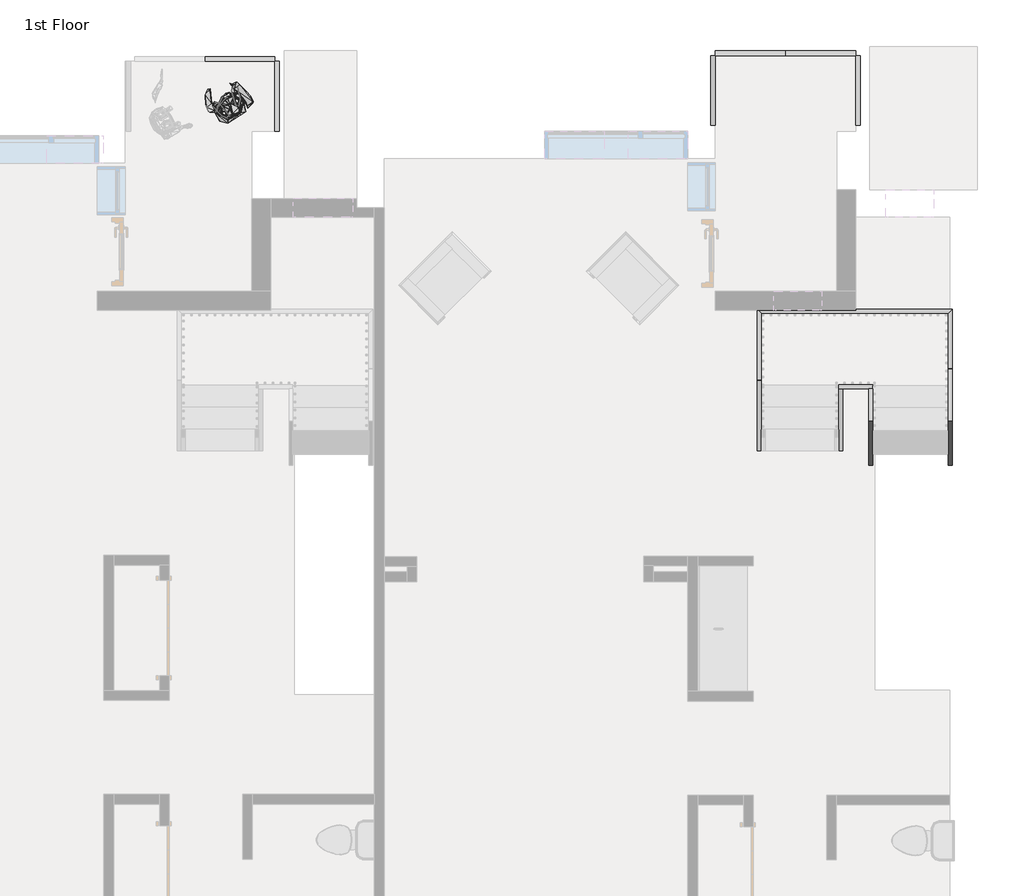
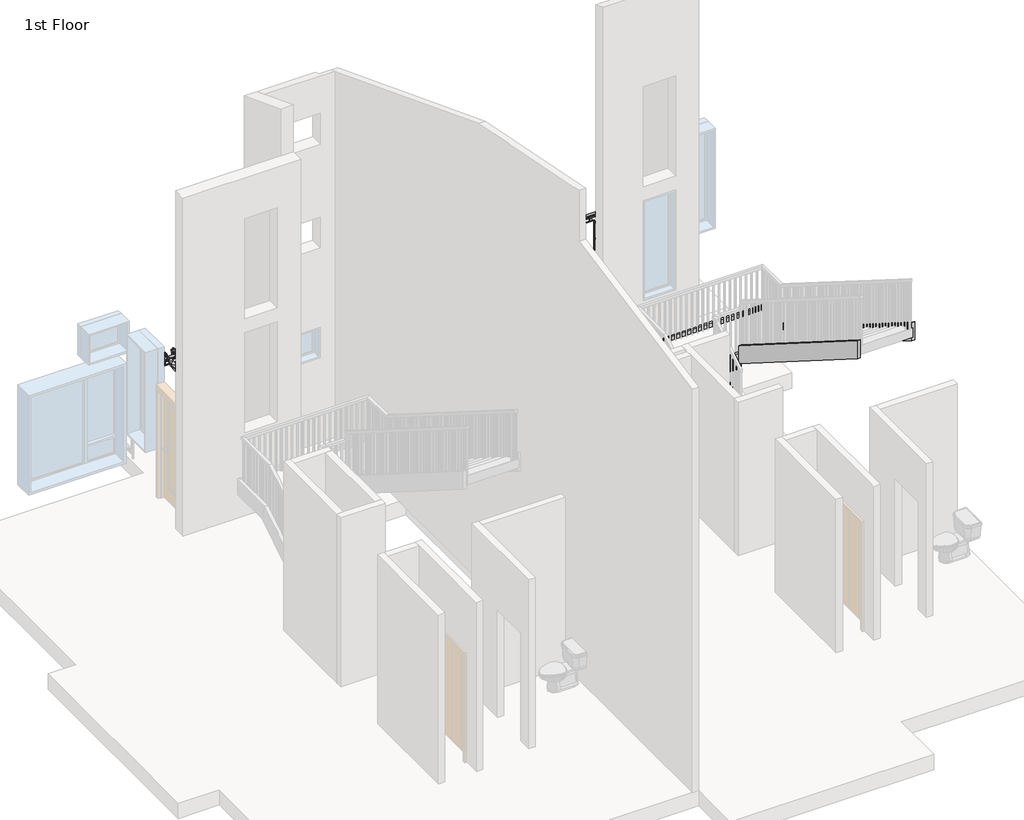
# One storey, part 6 of 6: 8 members, 6 proxies, 1 geographic element.
"""IFC4 building model written with IfcOpenShell, lengths in millimetres."""

from ifc_helpers import new_model, si_unit, frame, origin, place, context, project, spatial, polyline, outline, extrude, faceted_brep, transform, mapped, element, save
from components import railing_1panel_square_2b676750, geographic_element_af0ef37f

model = new_model("IFC4")

# Units and contexts
model_context = context("Model", 3, world=origin())
ifc_project = project(units=[si_unit("LENGTHUNIT", "METRE", prefix="MILLI")], contexts=[model_context])

# Site, building, storey
site = spatial("IfcSite", under=ifc_project)
building = spatial("IfcBuilding", under=site)
storey = spatial("IfcBuildingStorey", under=building, Name="1st Floor", Elevation=0.0)

# Proxies
placement = place(None, origin())
railing_1panel_square_shape = railing_1panel_square_2b676750(model_context)
element("IfcBuildingElementProxy", 1, Name="railing(inprogress)3 : railing 1panel square", ObjectType="railing(inprogress)3 : railing 1panel square", at=placement, inside=storey, context=model_context, shape_type="MappedRepresentation", body=[
    mapped(railing_1panel_square_shape, transform((2629.5676395, 6788.5000585, 0.0), x_axis=(0.0, 1.0, 0.0), y_axis=(-1.0, 0.0, 0.0), z_axis=(0.0, 0.0, 1.0))),
])
element("IfcBuildingElementProxy", 2, Name="railing(inprogress)3 : railing 1panel square", ObjectType="railing(inprogress)3 : railing 1panel square", at=placement, inside=storey, context=model_context, shape_type="MappedRepresentation", body=[
    mapped(railing_1panel_square_shape, transform((3464.9951899, 7781.718991, 0.0), x_axis=(1.0, 0.0, 0.0), y_axis=(0.0, 1.0, 0.0), z_axis=(0.0, 0.0, 1.0))),
])
element("IfcBuildingElementProxy", 3, Name="railing(inprogress)3 : railing 1panel square", ObjectType="railing(inprogress)3 : railing 1panel square", at=placement, inside=storey, context=model_context, shape_type="MappedRepresentation", body=[
    mapped(railing_1panel_square_shape, transform((2566.3053219, 7781.718991, 0.0), x_axis=(1.0, 0.0, 0.0), y_axis=(0.0, 1.0, 0.0), z_axis=(0.0, 0.0, 1.0))),
])
element("IfcBuildingElementProxy", 4, Name="railing(inprogress)3 : railing 1panel square", ObjectType="railing(inprogress)3 : railing 1panel square", at=placement, inside=storey, context=model_context, shape_type="MappedRepresentation", body=[
    mapped(railing_1panel_square_shape, transform((4458.2141224, 7844.9813085, 0.0), x_axis=(0.0, -1.0, 0.0), y_axis=(1.0, 0.0, 0.0), z_axis=(0.0, 0.0, 1.0))),
])
element("IfcBuildingElementProxy", 5, Name="railing(inprogress)3 : railing 1panel square", ObjectType="railing(inprogress)3 : railing 1panel square", at=placement, inside=storey, context=model_context, shape_type="MappedRepresentation", body=[
    mapped(railing_1panel_square_shape, transform((-3947.8910651, 7708.5252297, 0.0), x_axis=(1.0, 0.0, 0.0), y_axis=(0.0, 1.0, 0.0), z_axis=(0.0, 0.0, 1.0))),
])
element("IfcBuildingElementProxy", 6, Name="railing(inprogress)3 : railing 1panel square", ObjectType="railing(inprogress)3 : railing 1panel square", at=placement, inside=storey, context=model_context, shape_type="MappedRepresentation", body=[
    mapped(railing_1panel_square_shape, transform((-2955.3010146, 7772.1625585, 0.0), x_axis=(0.0, -1.0, 0.0), y_axis=(1.0, 0.0, 0.0), z_axis=(0.0, 0.0, 1.0))),
])

# Geographic element
geographic_element_shape = geographic_element_af0ef37f(model_context)
element("IfcGeographicElement", 7, ObjectType="Man10[1] : Man10[1]", at=placement, inside=storey, context=model_context, shape_type="MappedRepresentation", body=[
    mapped(geographic_element_shape, transform((-3406.0011628, 7044.0246176, 0.0), x_axis=(-0.34202014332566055, 0.9396926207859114, 0.0), y_axis=(-0.9396926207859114, -0.34202014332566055, 0.0), z_axis=(0.0, 0.0, 1.0))),
])

# Members
element("IfcMember", 8, ObjectType="Stringer - 2\" Width", at=placement, inside=storey, context=model_context, shape_type="SweptSolid", body=[
    extrude(outline(polyline([(2721.6563085, 0.0), (2721.6563085, 214.5443726), (3620.2110519, 782.0526316), (3708.4050603, 477.2526316), (2952.7550603, 0.0), (2721.6563085, 0.0)])), frame((3183.1939282, 0.0, 0.0), z_axis=(1.0, 0.0, 0.0), x_axis=(0.0, 1.0, 0.0)), (0.0, 0.0, 1.0), 50.8),
])
element("IfcMember", 9, ObjectType="Stringer - 2\" Width", at=placement, inside=storey, context=model_context, shape_type="SweptSolid", body=[
    extrude(outline(polyline([(2721.6563085, 0.0), (2721.6563085, 214.5443726), (3509.0563085, 711.8496358), (3509.0563085, 351.3481568), (2952.7550603, 0.0), (2721.6563085, 0.0)])), frame((4224.5939282, 0.0, 0.0), z_axis=(1.0, 0.0, 0.0), x_axis=(0.0, 1.0, 0.0)), (0.0, 0.0, 1.0), 50.8),
])
element("IfcMember", 10, ObjectType="Stringer - 2\" Width", at=placement, inside=storey, context=model_context, shape_type="SweptSolid", body=[
    extrude(outline(polyline([(3765.7015652, 782.0526316), (3677.5075568, 477.2526316), (-364.9436915, 3030.3797357), (-364.9436915, 3390.8812147), (3765.7015652, 782.0526316)])), frame((5623.6030789, 0.0, 0.0), z_axis=(1.0, 0.0, 0.0), x_axis=(0.0, 1.0, 0.0)), (0.0, 0.0, 1.0), 50.8),
])
element("IfcMember", 11, ObjectType="Stringer - 2\" Width", at=placement, inside=storey, context=model_context, shape_type="SweptSolid", body=[
    extrude(outline(polyline([(3509.0563085, 944.1443726), (3509.0563085, 583.6428936), (-364.9436915, 3030.3797357), (-364.9436915, 3390.8812147), (3509.0563085, 944.1443726)])), frame((4607.6030789, 0.0, 0.0), z_axis=(1.0, 0.0, 0.0), x_axis=(0.0, 1.0, 0.0)), (0.0, 0.0, 1.0), 50.8),
])
element("IfcMember", 12, ObjectType="Stringer - 2\" Width", at=placement, inside=storey, context=model_context, shape_type="Brep", body=[
    faceted_brep([(5623.6030789, 3765.7015652, 782.0526316), (5674.4030789, 3765.7015652, 782.0526316), (5674.4030789, 4525.0563085, 782.0526316), (5623.6030789, 4474.2563085, 782.0526316), (5623.6030789, 3677.5075568, 477.2526316), (5623.6030789, 4474.2563085, 477.2526316), (5674.4030789, 3677.5075568, 477.2526316), (5674.4030789, 4525.0563085, 477.2526316)], [[[0, 1, 2, 3]], [[4, 0, 3, 5]], [[6, 4, 5, 7]], [[1, 6, 7, 2]], [[1, 0, 4, 6]], [[2, 7, 5, 3]]]),
])
element("IfcMember", 13, ObjectType="Stringer - 2\" Width", at=placement, inside=storey, context=model_context, shape_type="SweptSolid", body=[
    extrude(outline(polyline([(5674.4030789, 4525.0563085), (5623.6030789, 4474.2563085), (3233.9939282, 4474.2563085), (3183.1939282, 4525.0563085), (5674.4030789, 4525.0563085)])), frame((0.0, 0.0, 477.2526316), z_axis=(0.0, 0.0, 1.0), x_axis=(1.0, 0.0, 0.0)), (0.0, 0.0, 1.0), 304.8),
])
element("IfcMember", 14, ObjectType="Stringer - 2\" Width", at=placement, inside=storey, context=model_context, shape_type="Brep", body=[
    faceted_brep([(3233.9939282, 4474.2563085, 782.0526316), (3183.1939282, 4525.0563085, 782.0526316), (3183.1939282, 3620.2110519, 782.0526316), (3233.9939282, 3620.2110519, 782.0526316), (3233.9939282, 4474.2563085, 477.2526316), (3233.9939282, 3708.4050603, 477.2526316), (3183.1939282, 4525.0563085, 477.2526316), (3183.1939282, 3708.4050603, 477.2526316)], [[[0, 1, 2, 3]], [[4, 0, 3, 5]], [[6, 4, 5, 7]], [[1, 6, 7, 2]], [[1, 0, 4, 6]], [[2, 7, 5, 3]]]),
])
element("IfcMember", 15, ObjectType="Stringer - 2\" Width", at=placement, inside=storey, context=model_context, shape_type="SweptSolid", body=[
    extrude(outline(polyline([(4224.5939282, 3509.0563085), (4224.5939282, 3559.8563085), (4658.4030789, 3559.8563085), (4658.4030789, 3509.0563085), (4224.5939282, 3509.0563085)])), frame((0.0, 0.0, 477.2526316), z_axis=(0.0, 0.0, 1.0), x_axis=(1.0, 0.0, 0.0)), (0.0, 0.0, 1.0), 304.8),
])

save(model, "model.ifc")
